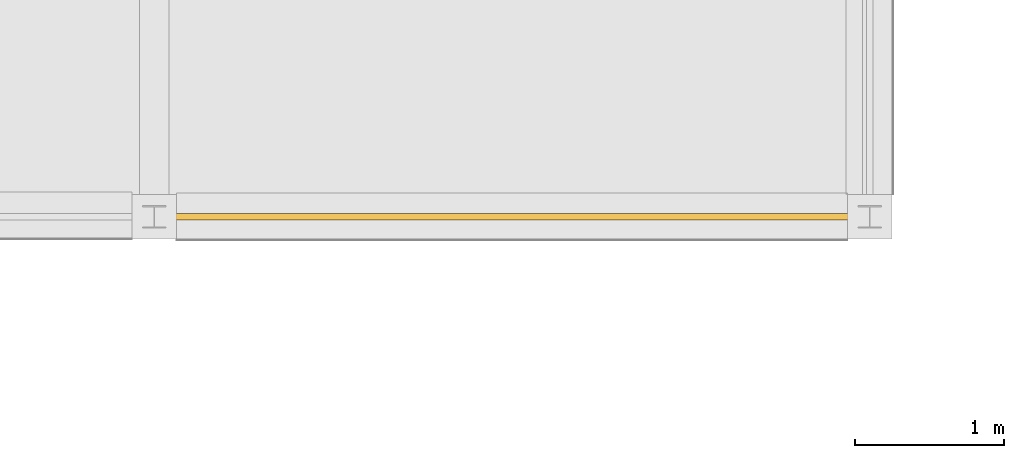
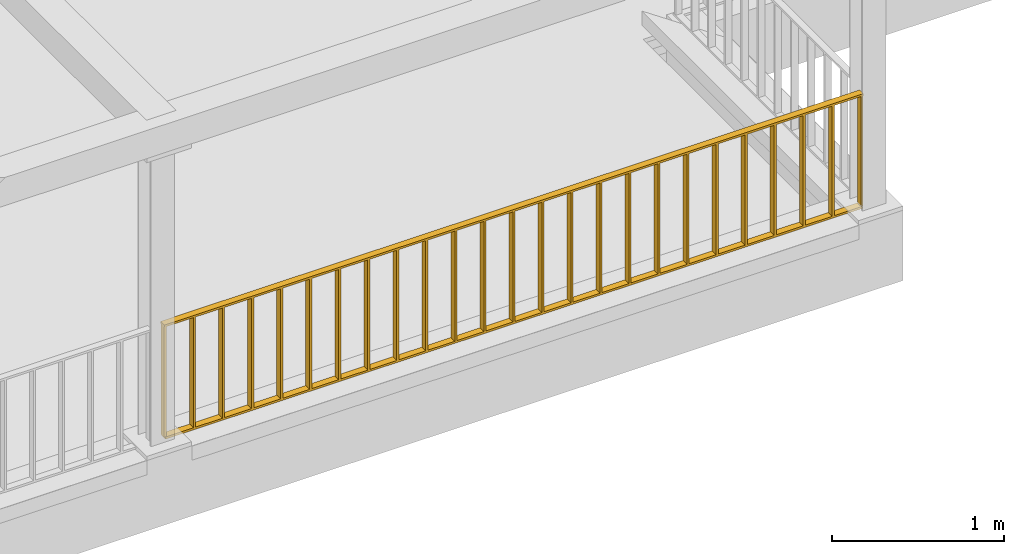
# One storey, part 26 of 36: 1 railing.
"""IFC4 building model written with IfcOpenShell, lengths in millimetres."""

import ifcopenshell
import ifcopenshell.guid

model = None  # the IFC model being written
_history = None  # IfcOwnerHistory: only IFC2X3 demands one
_inside = {}  # id of a spatial element -> (the spatial element, [elements in it])
_under = {}  # id of a project, library or spatial element -> (it, [spatial elements below it])
_declared = {}  # id of a project -> (the project, [libraries it declares])
_typed = {}  # id of a type object -> (the type object, [elements of that type])
_made_of = {}  # id of a material, layer set ... -> (it, [elements and type objects made of it])


def new_model(schema):
    """Start an empty IFC model of exactly this schema.

    Asked for "IFC4X3", IfcOpenShell would pick the latest addendum, in which some entities
    have other attributes; the version numbers below select the first issue.
    IFC2X3 requires an IfcOwnerHistory on every rooted entity: one is made here for all.
    """
    global model, _history
    if schema == "IFC4X3":
        model = ifcopenshell.file(schema_version=(4, 3, 0, 0))
    else:
        model = ifcopenshell.file(schema=schema)
    _inside.clear()
    _under.clear()
    _declared.clear()
    _typed.clear()
    _made_of.clear()
    _history = None
    if model.schema == "IFC2X3":
        org = make("IfcOrganization", Name="unknown")
        user = make(
            "IfcPersonAndOrganization",
            ThePerson=make("IfcPerson", FamilyName="unknown"),
            TheOrganization=org,
        )
        app = make(
            "IfcApplication",
            ApplicationDeveloper=org,
            Version="unknown",
            ApplicationFullName="unknown",
            ApplicationIdentifier="unknown",
        )
        _history = make(
            "IfcOwnerHistory",
            OwningUser=user,
            OwningApplication=app,
            ChangeAction="ADDED",
            CreationDate=0,
        )
    return model


def make(cls, **values):
    """One entity of the class cls with the attributes given. An attribute that is None is left unset."""
    return model.create_entity(
        cls, **{name: value for name, value in values.items() if value is not None}
    )


def entity(cls, *values):
    """Any entity or typed value of the class cls, its attributes in the order of the schema. None: left unset."""
    e = model.create_entity(cls)
    for i, value in enumerate(values):
        if value is not None:
            e[i] = value
    return e


def rooted(cls, **values):
    """An entity with a GlobalId (a new one), such as an element, a storey or a relation."""
    return make(cls, GlobalId=ifcopenshell.guid.new(), OwnerHistory=_history, **values)


def si_unit(unit_type, name, prefix=None):
    """IfcSIUnit, for example si_unit("LENGTHUNIT", "METRE", prefix="MILLI")."""
    return make("IfcSIUnit", UnitType=unit_type, Prefix=prefix, Name=name)


def converted_unit(unit_type, name, factor, base, dimensions=None, offset=None):
    """IfcConversionBasedUnit, such as the inch: factor (a typed value) times the base unit."""
    return make(
        "IfcConversionBasedUnit"
        if offset is None
        else "IfcConversionBasedUnitWithOffset",
        ConversionOffset=offset,
        Dimensions=None
        if dimensions is None
        else entity("IfcDimensionalExponents", *dimensions),
        UnitType=unit_type,
        Name=name,
        ConversionFactor=make(
            "IfcMeasureWithUnit", ValueComponent=factor, UnitComponent=base
        ),
    )


def derived_unit(unit_type, elements):
    """IfcDerivedUnit: a product of units, each with its exponent."""
    return make(
        "IfcDerivedUnit",
        Elements=[
            make("IfcDerivedUnitElement", Unit=unit, Exponent=power)
            for unit, power in elements
        ],
        UnitType=unit_type,
    )


def assignment(units):
    """IfcUnitAssignment: the units of a project."""
    return None if units is None else make("IfcUnitAssignment", Units=units)


def point(xyz):
    """IfcCartesianPoint."""
    return None if xyz is None else make("IfcCartesianPoint", Coordinates=xyz)


def direction(xyz):
    """IfcDirection."""
    return None if xyz is None else make("IfcDirection", DirectionRatios=xyz)


def frame(location, z_axis=None, x_axis=None):
    """IfcAxis2Placement3D, a coordinate frame: its origin and axes. An axis left out is left unset."""
    return make(
        "IfcAxis2Placement3D",
        Location=point(location),
        Axis=direction(z_axis),
        RefDirection=direction(x_axis),
    )


def origin_with_axes():
    """The frame at (0, 0, 0) with the z axis (0, 0, 1) and the x axis (1, 0, 0) written out."""
    return frame((0.0, 0.0, 0.0), z_axis=(0.0, 0.0, 1.0), x_axis=(1.0, 0.0, 0.0))


def place(relative_to, where):
    """IfcLocalPlacement: puts the frame where relative to a parent placement (None: the world)."""
    return make(
        "IfcLocalPlacement", PlacementRelTo=relative_to, RelativePlacement=where
    )


def context(
    kind, dimensions, precision=None, world=None, true_north=None, identifier=None
):
    """IfcGeometricRepresentationContext, for example the 3D "Model" context."""
    return make(
        "IfcGeometricRepresentationContext",
        ContextIdentifier=identifier,
        ContextType=kind,
        CoordinateSpaceDimension=dimensions,
        Precision=precision,
        WorldCoordinateSystem=world,
        TrueNorth=true_north,
    )


def subcontext(parent, identifier, kind, view, scale=None):
    """IfcGeometricRepresentationSubContext, for example "Body" below "Model"."""
    return make(
        "IfcGeometricRepresentationSubContext",
        ContextIdentifier=identifier,
        ContextType=kind,
        ParentContext=parent,
        TargetScale=scale,
        TargetView=view,
    )


def project(units=None, contexts=None):
    """IfcProject with its units and contexts."""
    return rooted(
        "IfcProject",
        Name="project",
        RepresentationContexts=contexts,
        UnitsInContext=assignment(units),
    )


def spatial(cls, under=None, at=None, **own):
    """A site, building, storey or space (cls), placed at a placement, below another one or the project."""
    s = rooted(cls, ObjectPlacement=at, **own)
    if under is not None:
        _under.setdefault(under.id(), (under, []))[1].append(s)
    return s


def point_list(points):
    """IfcCartesianPointList2D or 3D."""
    cls = (
        "IfcCartesianPointList2D" if len(points[0]) == 2 else "IfcCartesianPointList3D"
    )
    return make(cls, CoordList=points)


def polygons(points, faces, closed=None, point_numbers=None):
    """IfcPolygonalFaceSet: a face is its outer loop, then its inner loops; points numbered from 1."""
    made = []
    for loops in faces:
        if len(loops) == 1:
            made.append(make("IfcIndexedPolygonalFace", CoordIndex=loops[0]))
        else:
            made.append(
                make(
                    "IfcIndexedPolygonalFaceWithVoids",
                    CoordIndex=loops[0],
                    InnerCoordIndices=loops[1:],
                )
            )
    return make(
        "IfcPolygonalFaceSet",
        Coordinates=point_list(points),
        Closed=closed,
        Faces=made,
        PnIndex=point_numbers,
    )


def shape(context_of_items, identifier, shape_type, items):
    """IfcShapeRepresentation: the items that make up one representation, for example the "Body"."""
    return make(
        "IfcShapeRepresentation",
        ContextOfItems=context_of_items,
        RepresentationIdentifier=identifier,
        RepresentationType=shape_type,
        Items=items,
    )


def material(Name=None, Category=None):
    """IfcMaterial."""
    return make("IfcMaterial", Name=Name, Category=Category)


def constituent(of_material, Name=None, Category=None, fraction=None):
    """IfcMaterialConstituent: one of the materials an element consists of."""
    return make(
        "IfcMaterialConstituent",
        Name=Name,
        Material=of_material,
        Fraction=fraction,
        Category=Category,
    )


def constituent_set(constituents=None, Name=None):
    """IfcMaterialConstituentSet."""
    return make(
        "IfcMaterialConstituentSet", Name=Name, MaterialConstituents=constituents
    )


def made_of(thing, what):
    """Note that an element or type object is made of a material, layer set ...; save() writes the relation."""
    if what is not None:
        _made_of.setdefault(what.id(), (what, []))[1].append(thing)
    return thing


def type_object(cls, material=None, **own):
    """A type object (cls), such as IfcWallType, which elements share."""
    return made_of(rooted(cls, **own), material)


def element(
    cls,
    number,
    at=None,
    inside=None,
    cuts=None,
    type_object=None,
    material=None,
    context=None,
    identifier="Body",
    shape_type=None,
    held_by="IfcProductDefinitionShape",
    body=None,
    shapes=None,
    **own,
):
    """One element of the class cls, such as IfcWall. Its Tag is "e" and its number.

    at: its placement. inside: the storey or other place that contains it. cuts: it is an
    opening in that element (IfcRelVoidsElement). A single representation is given by context,
    identifier, shape_type and body (its items); several are given by shapes. held_by: the class
    of the entity that holds the representations. save() writes the other relations.
    """
    e = rooted(cls, Tag="e%d" % number, ObjectPlacement=at, **own)
    if body is not None:
        shapes = [shape(context, identifier, shape_type, body)]
    if shapes is not None:
        e.Representation = make(held_by, Representations=shapes)
    if inside is not None:
        _inside.setdefault(inside.id(), (inside, []))[1].append(e)
    if cuts is not None:
        rooted(
            "IfcRelVoidsElement", RelatingBuildingElement=cuts, RelatedOpeningElement=e
        )
    if type_object is not None:
        _typed.setdefault(type_object.id(), (type_object, []))[1].append(e)
    return made_of(e, material)


def aggregate(whole, parts):
    """IfcRelAggregates: a whole, such as a stair, and the parts it consists of."""
    return rooted("IfcRelAggregates", RelatingObject=whole, RelatedObjects=parts)


def save(model, path):
    """Write the relations noted so far, then the file.

    IfcRelAggregates (storeys below a building ...), IfcRelContainedInSpatialStructure (elements
    in a storey), IfcRelDefinesByType, IfcRelAssociatesMaterial and IfcRelDeclares: one each for
    every whole, place, type object, material and project.
    """
    for whole, parts in _under.values():
        aggregate(whole, parts)
    for where, things in _inside.values():
        rooted(
            "IfcRelContainedInSpatialStructure",
            RelatedElements=things,
            RelatingStructure=where,
        )
    for kind, things in _typed.values():
        rooted("IfcRelDefinesByType", RelatedObjects=things, RelatingType=kind)
    for what, things in _made_of.values():
        rooted("IfcRelAssociatesMaterial", RelatedObjects=things, RelatingMaterial=what)
    for by, libraries in _declared.values():
        rooted("IfcRelDeclares", RelatingContext=by, RelatedDefinitions=libraries)
    model.write(path)


model = new_model("IFC4")

# Units and contexts
model_context = context("Model", 3, precision=0.01, world=origin_with_axes(), true_north=direction((0.0, 1.0)))
body_context = subcontext(model_context, "Body", "Model", "MODEL_VIEW")
ifc_project = project(units=[si_unit("LENGTHUNIT", "METRE", prefix="MILLI"), si_unit("AREAUNIT", "SQUARE_METRE"), si_unit("VOLUMEUNIT", "CUBIC_METRE"), converted_unit("PLANEANGLEUNIT", "DEGREE", entity("IfcPlaneAngleMeasure", 0.0174532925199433), si_unit("PLANEANGLEUNIT", "RADIAN"), dimensions=[0, 0, 0, 0, 0, 0, 0]), converted_unit("TIMEUNIT", "Year", entity("IfcTimeMeasure", 31557600.0), si_unit("TIMEUNIT", "SECOND"), dimensions=[0, 0, 1, 0, 0, 0, 0]), si_unit("MASSUNIT", "GRAM", prefix="KILO"), si_unit("THERMODYNAMICTEMPERATUREUNIT", "DEGREE_CELSIUS"), si_unit("LUMINOUSINTENSITYUNIT", "LUMEN"), si_unit("ENERGYUNIT", "JOULE", prefix="MEGA"), derived_unit("THERMALCONDUCTANCEUNIT", [(si_unit("POWERUNIT", "WATT"), 1), (si_unit("LENGTHUNIT", "METRE"), -1), (si_unit("THERMODYNAMICTEMPERATUREUNIT", "KELVIN"), -1)]), derived_unit("SPECIFICHEATCAPACITYUNIT", [(si_unit("ENERGYUNIT", "JOULE"), 1), (si_unit("MASSUNIT", "GRAM", prefix="KILO"), -1), (si_unit("THERMODYNAMICTEMPERATUREUNIT", "KELVIN"), -1)]), derived_unit("MASSDENSITYUNIT", [(si_unit("MASSUNIT", "GRAM", prefix="KILO"), 1), (si_unit("VOLUMEUNIT", "CUBIC_METRE"), -1)])], contexts=[model_context])

# Site, building, storey
site_placement = place(None, origin_with_axes())
site = spatial("IfcSite", under=ifc_project, at=site_placement, Name="Gelände", CompositionType="ELEMENT")
building_placement = place(site_placement, origin_with_axes())
building = spatial("IfcBuilding", under=site, at=building_placement, Name="Gebäude", CompositionType="ELEMENT")
storey_placement = place(building_placement, frame((0.0, 0.0, 8700.0), z_axis=(0.0, 0.0, 1.0), x_axis=(1.0, 0.0, 0.0)))
storey = spatial("IfcBuildingStorey", under=building, at=storey_placement, Name="Attika", CompositionType="ELEMENT", Elevation=8700.0)

# Railing
ifc_material = material(Name="Stahl")
ifc_constituent_1 = constituent(ifc_material, Name="Stahl 1")
ifc_constituent_2 = constituent(ifc_material, Name="Stahl 2")
ifc_constituent_3 = constituent(ifc_material, Name="Stahl 3")
ifc_constituent_4 = constituent(ifc_material, Name="Stahl 4")
ifc_constituent_5 = constituent(ifc_material, Name="Stahl 5")
ifc_constituent_6 = constituent(ifc_material, Name="Stahl 6")
ifc_constituent_7 = constituent(ifc_material, Name="Stahl 7")
ifc_constituent_8 = constituent(ifc_material, Name="Stahl 8")
ifc_constituent_9 = constituent(ifc_material, Name="Stahl 9")
ifc_constituent_10 = constituent(ifc_material, Name="Stahl 10")
ifc_constituent_11 = constituent(ifc_material, Name="Stahl 11")
ifc_constituent_12 = constituent(ifc_material, Name="Stahl 12")
ifc_constituent_13 = constituent(ifc_material, Name="Stahl 13")
ifc_constituent_14 = constituent(ifc_material, Name="Stahl 14")
ifc_constituent_15 = constituent(ifc_material, Name="Stahl 15")
ifc_constituent_16 = constituent(ifc_material, Name="Stahl 16")
ifc_constituent_17 = constituent(ifc_material, Name="Stahl 17")
ifc_constituent_18 = constituent(ifc_material, Name="Stahl 18")
ifc_constituent_19 = constituent(ifc_material, Name="Stahl 19")
ifc_constituent_20 = constituent(ifc_material, Name="Stahl 20")
ifc_constituent_21 = constituent(ifc_material, Name="Stahl 21")
ifc_constituent_22 = constituent(ifc_material, Name="Stahl 22")
ifc_constituent_23 = constituent(ifc_material, Name="Stahl 23")
ifc_constituent_24 = constituent(ifc_material, Name="Stahl 24")
ifc_constituent_25 = constituent(ifc_material, Name="Stahl 25")
ifc_constituent_26 = constituent(ifc_material, Name="Stahl 26")
ifc_constituent_27 = constituent(ifc_material, Name="Stahl 27")
ifc_constituent_28 = constituent(ifc_material, Name="Stahl 28")
ifc_constituent_29 = constituent(ifc_material, Name="Stahl 29")
ifc_constituent_set = constituent_set(constituents=[ifc_constituent_1, ifc_constituent_2, ifc_constituent_3, ifc_constituent_4, ifc_constituent_5, ifc_constituent_6, ifc_constituent_7, ifc_constituent_8, ifc_constituent_9, ifc_constituent_10, ifc_constituent_11, ifc_constituent_12, ifc_constituent_13, ifc_constituent_14, ifc_constituent_15, ifc_constituent_16, ifc_constituent_17, ifc_constituent_18, ifc_constituent_19, ifc_constituent_20, ifc_constituent_21, ifc_constituent_22, ifc_constituent_23, ifc_constituent_24, ifc_constituent_25, ifc_constituent_26, ifc_constituent_27, ifc_constituent_28, ifc_constituent_29])
railing_type = type_object("IfcRailingType", Name="Geländerart", PredefinedType="NOTDEFINED")
railing_placement = place(storey_placement, frame((15627.05528052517, 21097.59674077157, 519.9999999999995), z_axis=(0.0, 0.0, 1.0), x_axis=(-1.0, 0.0, 0.0)))
element("IfcRailing", 1, at=railing_placement, inside=storey, type_object=railing_type, material=ifc_constituent_set, Name="Geländer-003", PredefinedType="NOTDEFINED", context=body_context, shape_type="Tessellation", body=[
    polygons([(196.5594620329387, 19.99999999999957, 0.0), (196.5594620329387, 19.99999999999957, 800.0000000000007), (196.5594620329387, -19.99999999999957, 800.0000000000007), (196.5594620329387, -19.99999999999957, 0.0), (181.5594620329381, 19.99999999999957, 0.0), (181.5594620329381, 19.99999999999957, 800.0000000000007), (181.5594620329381, -19.99999999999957, 800.0000000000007), (181.5594620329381, -19.99999999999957, 0.0)], [[[1, 2, 3, 4]], [[5, 6, 2, 1]], [[2, 6, 7, 3]], [[4, 3, 7, 8]], [[1, 4, 8, 5]], [[8, 7, 6, 5]]], closed=True),
    polygons([(189.0594620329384, 22.50000000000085, 800.0000000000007), (189.0594620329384, 22.50000000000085, 785.0000000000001), (181.5594620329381, 22.50000000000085, 785.0000000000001), (181.5594620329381, 22.50000000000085, 800.0000000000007), (189.0594620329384, -22.50000000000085, 800.0000000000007), (189.0594620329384, -22.50000000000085, 785.0000000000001), (181.5594620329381, -22.50000000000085, 785.0000000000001), (181.5594620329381, -22.50000000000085, 800.0000000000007)], [[[1, 2, 3, 4]], [[1, 5, 6, 2]], [[2, 6, 7, 3]], [[4, 3, 7, 8]], [[5, 1, 4, 8]], [[6, 5, 8, 7]]], closed=True),
    polygons([(4887.359462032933, 19.99999999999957, 0.0), (4887.359462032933, 19.99999999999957, 800.0000000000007), (4887.359462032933, -19.99999999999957, 800.0000000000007), (4887.359462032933, -19.99999999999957, 0.0), (4872.359462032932, 19.99999999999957, 0.0), (4872.359462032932, 19.99999999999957, 800.0000000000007), (4872.359462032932, -19.99999999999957, 800.0000000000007), (4872.359462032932, -19.99999999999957, 0.0)], [[[1, 2, 3, 4]], [[5, 6, 2, 1]], [[2, 6, 7, 3]], [[4, 3, 7, 8]], [[1, 4, 8, 5]], [[8, 7, 6, 5]]], closed=True),
    polygons([(4879.859462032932, -22.50000000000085, 800.0000000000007), (4879.859462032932, -22.50000000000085, 785.0000000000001), (4887.359462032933, -22.50000000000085, 785.0000000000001), (4887.359462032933, -22.50000000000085, 800.0000000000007), (4879.859462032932, 22.50000000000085, 800.0000000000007), (4879.859462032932, 22.50000000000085, 785.0000000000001), (4887.359462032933, 22.50000000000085, 785.0000000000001), (4887.359462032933, 22.50000000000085, 800.0000000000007)], [[[1, 2, 3, 4]], [[1, 5, 6, 2]], [[2, 6, 7, 3]], [[4, 3, 7, 8]], [[5, 1, 4, 8]], [[6, 5, 8, 7]]], closed=True),
    polygons([(189.0594620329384, -22.50000000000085, 0.9999999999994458), (189.0594620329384, -22.50000000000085, -14.00000000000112), (4879.859462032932, -22.50000000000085, -14.00000000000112), (4879.859462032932, -22.50000000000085, 0.9999999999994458), (189.0594620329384, 22.50000000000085, 0.9999999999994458), (189.0594620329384, 22.50000000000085, -14.00000000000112), (4879.859462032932, 22.50000000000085, -14.00000000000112), (4879.859462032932, 22.50000000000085, 0.9999999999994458)], [[[1, 2, 3, 4]], [[1, 5, 6, 2]], [[2, 6, 7, 3]], [[4, 3, 7, 8]], [[5, 1, 4, 8]], [[6, 5, 8, 7]]], closed=True),
    polygons([(189.0594620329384, -22.50000000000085, 800.0000000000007), (189.0594620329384, -22.50000000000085, 785.0000000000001), (4879.859462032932, -22.50000000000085, 785.0000000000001), (4879.859462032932, -22.50000000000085, 800.0000000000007), (189.0594620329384, 22.50000000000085, 800.0000000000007), (189.0594620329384, 22.50000000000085, 785.0000000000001), (4879.859462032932, 22.50000000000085, 785.0000000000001), (4879.859462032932, 22.50000000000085, 800.0000000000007)], [[[1, 2, 3, 4]], [[1, 5, 6, 2]], [[2, 6, 7, 3]], [[4, 3, 7, 8]], [[5, 1, 4, 8]], [[6, 5, 8, 7]]], closed=True),
    polygons([(392.009462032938, 22.50000000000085, 0.0), (392.009462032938, 22.50000000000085, 785.2293691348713), (392.009462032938, -22.50000000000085, 785.2293691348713), (392.009462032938, -22.50000000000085, 0.0), (377.0094620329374, 22.50000000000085, 0.0), (377.0094620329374, 22.50000000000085, 785.2293691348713), (377.0094620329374, -22.50000000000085, 785.2293691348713), (377.0094620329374, -22.50000000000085, 0.0)], [[[1, 2, 3, 4]], [[5, 6, 2, 1]], [[2, 6, 7, 3]], [[4, 3, 7, 8]], [[1, 4, 8, 5]], [[8, 7, 6, 5]]], closed=True),
    polygons([(587.459462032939, 22.50000000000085, 0.0), (587.459462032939, 22.50000000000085, 785.2293691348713), (587.459462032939, -22.50000000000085, 785.2293691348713), (587.459462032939, -22.50000000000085, 0.0), (572.4594620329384, 22.50000000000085, 0.0), (572.4594620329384, 22.50000000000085, 785.2293691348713), (572.4594620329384, -22.50000000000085, 785.2293691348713), (572.4594620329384, -22.50000000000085, 0.0)], [[[1, 2, 3, 4]], [[5, 6, 2, 1]], [[2, 6, 7, 3]], [[4, 3, 7, 8]], [[1, 4, 8, 5]], [[8, 7, 6, 5]]], closed=True),
    polygons([(782.9094620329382, 22.50000000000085, 0.0), (782.9094620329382, 22.50000000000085, 785.2293691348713), (782.9094620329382, -22.50000000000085, 785.2293691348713), (782.9094620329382, -22.50000000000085, 0.0), (767.9094620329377, 22.50000000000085, 0.0), (767.9094620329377, 22.50000000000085, 785.2293691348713), (767.9094620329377, -22.50000000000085, 785.2293691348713), (767.9094620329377, -22.50000000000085, 0.0)], [[[1, 2, 3, 4]], [[5, 6, 2, 1]], [[2, 6, 7, 3]], [[4, 3, 7, 8]], [[1, 4, 8, 5]], [[8, 7, 6, 5]]], closed=True),
    polygons([(978.3594620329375, 22.50000000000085, 0.0), (978.3594620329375, 22.50000000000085, 785.2293691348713), (978.3594620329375, -22.50000000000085, 785.2293691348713), (978.3594620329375, -22.50000000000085, 0.0), (963.3594620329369, 22.50000000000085, 0.0), (963.3594620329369, 22.50000000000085, 785.2293691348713), (963.3594620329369, -22.50000000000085, 785.2293691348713), (963.3594620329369, -22.50000000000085, 0.0)], [[[1, 2, 3, 4]], [[5, 6, 2, 1]], [[2, 6, 7, 3]], [[4, 3, 7, 8]], [[1, 4, 8, 5]], [[8, 7, 6, 5]]], closed=True),
    polygons([(1173.809462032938, 22.50000000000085, 0.0), (1173.809462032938, 22.50000000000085, 785.2293691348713), (1173.809462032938, -22.50000000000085, 785.2293691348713), (1173.809462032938, -22.50000000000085, 0.0), (1158.809462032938, 22.50000000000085, 0.0), (1158.809462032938, 22.50000000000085, 785.2293691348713), (1158.809462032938, -22.50000000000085, 785.2293691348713), (1158.809462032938, -22.50000000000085, 0.0)], [[[1, 2, 3, 4]], [[5, 6, 2, 1]], [[2, 6, 7, 3]], [[4, 3, 7, 8]], [[1, 4, 8, 5]], [[8, 7, 6, 5]]], closed=True),
    polygons([(1369.259462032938, 22.50000000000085, 0.0), (1369.259462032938, 22.50000000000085, 785.2293691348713), (1369.259462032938, -22.50000000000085, 785.2293691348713), (1369.259462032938, -22.50000000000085, 0.0), (1354.259462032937, 22.50000000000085, 0.0), (1354.259462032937, 22.50000000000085, 785.2293691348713), (1354.259462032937, -22.50000000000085, 785.2293691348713), (1354.259462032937, -22.50000000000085, 0.0)], [[[1, 2, 3, 4]], [[5, 6, 2, 1]], [[2, 6, 7, 3]], [[4, 3, 7, 8]], [[1, 4, 8, 5]], [[8, 7, 6, 5]]], closed=True),
    polygons([(1564.709462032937, 22.50000000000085, 0.0), (1564.709462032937, 22.50000000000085, 785.2293691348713), (1564.709462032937, -22.50000000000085, 785.2293691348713), (1564.709462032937, -22.50000000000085, 0.0), (1549.709462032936, 22.50000000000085, 0.0), (1549.709462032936, 22.50000000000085, 785.2293691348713), (1549.709462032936, -22.50000000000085, 785.2293691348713), (1549.709462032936, -22.50000000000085, 0.0)], [[[1, 2, 3, 4]], [[5, 6, 2, 1]], [[2, 6, 7, 3]], [[4, 3, 7, 8]], [[1, 4, 8, 5]], [[8, 7, 6, 5]]], closed=True),
    polygons([(1760.159462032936, 22.50000000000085, 0.0), (1760.159462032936, 22.50000000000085, 785.2293691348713), (1760.159462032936, -22.50000000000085, 785.2293691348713), (1760.159462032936, -22.50000000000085, 0.0), (1745.159462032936, 22.50000000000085, 0.0), (1745.159462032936, 22.50000000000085, 785.2293691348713), (1745.159462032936, -22.50000000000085, 785.2293691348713), (1745.159462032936, -22.50000000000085, 0.0)], [[[1, 2, 3, 4]], [[5, 6, 2, 1]], [[2, 6, 7, 3]], [[4, 3, 7, 8]], [[1, 4, 8, 5]], [[8, 7, 6, 5]]], closed=True),
    polygons([(1955.609462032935, 22.50000000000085, 0.0), (1955.609462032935, 22.50000000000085, 785.2293691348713), (1955.609462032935, -22.50000000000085, 785.2293691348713), (1955.609462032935, -22.50000000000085, 0.0), (1940.609462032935, 22.50000000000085, 0.0), (1940.609462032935, 22.50000000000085, 785.2293691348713), (1940.609462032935, -22.50000000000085, 785.2293691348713), (1940.609462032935, -22.50000000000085, 0.0)], [[[1, 2, 3, 4]], [[5, 6, 2, 1]], [[2, 6, 7, 3]], [[4, 3, 7, 8]], [[1, 4, 8, 5]], [[8, 7, 6, 5]]], closed=True),
    polygons([(2151.059462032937, 22.50000000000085, 0.0), (2151.059462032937, 22.50000000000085, 785.2293691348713), (2151.059462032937, -22.50000000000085, 785.2293691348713), (2151.059462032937, -22.50000000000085, 0.0), (2136.059462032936, 22.50000000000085, 0.0), (2136.059462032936, 22.50000000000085, 785.2293691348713), (2136.059462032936, -22.50000000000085, 785.2293691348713), (2136.059462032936, -22.50000000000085, 0.0)], [[[1, 2, 3, 4]], [[5, 6, 2, 1]], [[2, 6, 7, 3]], [[4, 3, 7, 8]], [[1, 4, 8, 5]], [[8, 7, 6, 5]]], closed=True),
    polygons([(2346.509462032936, 22.50000000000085, 0.0), (2346.509462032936, 22.50000000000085, 785.2293691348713), (2346.509462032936, -22.50000000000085, 785.2293691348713), (2346.509462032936, -22.50000000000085, 0.0), (2331.509462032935, 22.50000000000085, 0.0), (2331.509462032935, 22.50000000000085, 785.2293691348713), (2331.509462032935, -22.50000000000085, 785.2293691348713), (2331.509462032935, -22.50000000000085, 0.0)], [[[1, 2, 3, 4]], [[5, 6, 2, 1]], [[2, 6, 7, 3]], [[4, 3, 7, 8]], [[1, 4, 8, 5]], [[8, 7, 6, 5]]], closed=True),
    polygons([(2541.959462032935, 22.50000000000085, 0.0), (2541.959462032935, 22.50000000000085, 785.2293691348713), (2541.959462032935, -22.50000000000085, 785.2293691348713), (2541.959462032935, -22.50000000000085, 0.0), (2526.959462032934, 22.50000000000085, 0.0), (2526.959462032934, 22.50000000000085, 785.2293691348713), (2526.959462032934, -22.50000000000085, 785.2293691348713), (2526.959462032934, -22.50000000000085, 0.0)], [[[1, 2, 3, 4]], [[5, 6, 2, 1]], [[2, 6, 7, 3]], [[4, 3, 7, 8]], [[1, 4, 8, 5]], [[8, 7, 6, 5]]], closed=True),
    polygons([(2737.409462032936, 22.50000000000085, 0.0), (2737.409462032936, 22.50000000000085, 785.2293691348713), (2737.409462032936, -22.50000000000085, 785.2293691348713), (2737.409462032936, -22.50000000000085, 0.0), (2722.409462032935, 22.50000000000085, 0.0), (2722.409462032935, 22.50000000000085, 785.2293691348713), (2722.409462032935, -22.50000000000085, 785.2293691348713), (2722.409462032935, -22.50000000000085, 0.0)], [[[1, 2, 3, 4]], [[5, 6, 2, 1]], [[2, 6, 7, 3]], [[4, 3, 7, 8]], [[1, 4, 8, 5]], [[8, 7, 6, 5]]], closed=True),
    polygons([(2932.859462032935, 22.50000000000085, 0.0), (2932.859462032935, 22.50000000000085, 785.2293691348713), (2932.859462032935, -22.50000000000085, 785.2293691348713), (2932.859462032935, -22.50000000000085, 0.0), (2917.859462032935, 22.50000000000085, 0.0), (2917.859462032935, 22.50000000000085, 785.2293691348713), (2917.859462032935, -22.50000000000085, 785.2293691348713), (2917.859462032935, -22.50000000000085, 0.0)], [[[1, 2, 3, 4]], [[5, 6, 2, 1]], [[2, 6, 7, 3]], [[4, 3, 7, 8]], [[1, 4, 8, 5]], [[8, 7, 6, 5]]], closed=True),
    polygons([(3128.309462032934, 22.50000000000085, 0.0), (3128.309462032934, 22.50000000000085, 785.2293691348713), (3128.309462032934, -22.50000000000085, 785.2293691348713), (3128.309462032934, -22.50000000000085, 0.0), (3113.309462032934, 22.50000000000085, 0.0), (3113.309462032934, 22.50000000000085, 785.2293691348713), (3113.309462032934, -22.50000000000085, 785.2293691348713), (3113.309462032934, -22.50000000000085, 0.0)], [[[1, 2, 3, 4]], [[5, 6, 2, 1]], [[2, 6, 7, 3]], [[4, 3, 7, 8]], [[1, 4, 8, 5]], [[8, 7, 6, 5]]], closed=True),
    polygons([(3323.759462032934, 22.50000000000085, 0.0), (3323.759462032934, 22.50000000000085, 785.2293691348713), (3323.759462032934, -22.50000000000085, 785.2293691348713), (3323.759462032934, -22.50000000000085, 0.0), (3308.759462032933, 22.50000000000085, 0.0), (3308.759462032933, 22.50000000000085, 785.2293691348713), (3308.759462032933, -22.50000000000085, 785.2293691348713), (3308.759462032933, -22.50000000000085, 0.0)], [[[1, 2, 3, 4]], [[5, 6, 2, 1]], [[2, 6, 7, 3]], [[4, 3, 7, 8]], [[1, 4, 8, 5]], [[8, 7, 6, 5]]], closed=True),
    polygons([(3519.209462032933, 22.50000000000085, 0.0), (3519.209462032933, 22.50000000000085, 785.2293691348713), (3519.209462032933, -22.50000000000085, 785.2293691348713), (3519.209462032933, -22.50000000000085, 0.0), (3504.209462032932, 22.50000000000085, 0.0), (3504.209462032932, 22.50000000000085, 785.2293691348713), (3504.209462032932, -22.50000000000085, 785.2293691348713), (3504.209462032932, -22.50000000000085, 0.0)], [[[1, 2, 3, 4]], [[5, 6, 2, 1]], [[2, 6, 7, 3]], [[4, 3, 7, 8]], [[1, 4, 8, 5]], [[8, 7, 6, 5]]], closed=True),
    polygons([(3714.659462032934, 22.50000000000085, 0.0), (3714.659462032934, 22.50000000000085, 785.2293691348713), (3714.659462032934, -22.50000000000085, 785.2293691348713), (3714.659462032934, -22.50000000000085, 0.0), (3699.659462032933, 22.50000000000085, 0.0), (3699.659462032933, 22.50000000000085, 785.2293691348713), (3699.659462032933, -22.50000000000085, 785.2293691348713), (3699.659462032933, -22.50000000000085, 0.0)], [[[1, 2, 3, 4]], [[5, 6, 2, 1]], [[2, 6, 7, 3]], [[4, 3, 7, 8]], [[1, 4, 8, 5]], [[8, 7, 6, 5]]], closed=True),
    polygons([(3910.109462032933, 22.50000000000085, 0.0), (3910.109462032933, 22.50000000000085, 785.2293691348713), (3910.109462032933, -22.50000000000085, 785.2293691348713), (3910.109462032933, -22.50000000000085, 0.0), (3895.109462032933, 22.50000000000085, 0.0), (3895.109462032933, 22.50000000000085, 785.2293691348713), (3895.109462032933, -22.50000000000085, 785.2293691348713), (3895.109462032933, -22.50000000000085, 0.0)], [[[1, 2, 3, 4]], [[5, 6, 2, 1]], [[2, 6, 7, 3]], [[4, 3, 7, 8]], [[1, 4, 8, 5]], [[8, 7, 6, 5]]], closed=True),
    polygons([(4105.559462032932, 22.50000000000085, 0.0), (4105.559462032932, 22.50000000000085, 785.2293691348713), (4105.559462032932, -22.50000000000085, 785.2293691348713), (4105.559462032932, -22.50000000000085, 0.0), (4090.559462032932, 22.50000000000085, 0.0), (4090.559462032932, 22.50000000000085, 785.2293691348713), (4090.559462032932, -22.50000000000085, 785.2293691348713), (4090.559462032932, -22.50000000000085, 0.0)], [[[1, 2, 3, 4]], [[5, 6, 2, 1]], [[2, 6, 7, 3]], [[4, 3, 7, 8]], [[1, 4, 8, 5]], [[8, 7, 6, 5]]], closed=True),
    polygons([(4301.009462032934, 22.50000000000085, 0.0), (4301.009462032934, 22.50000000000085, 785.2293691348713), (4301.009462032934, -22.50000000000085, 785.2293691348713), (4301.009462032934, -22.50000000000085, 0.0), (4286.009462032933, 22.50000000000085, 0.0), (4286.009462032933, 22.50000000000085, 785.2293691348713), (4286.009462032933, -22.50000000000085, 785.2293691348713), (4286.009462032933, -22.50000000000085, 0.0)], [[[1, 2, 3, 4]], [[5, 6, 2, 1]], [[2, 6, 7, 3]], [[4, 3, 7, 8]], [[1, 4, 8, 5]], [[8, 7, 6, 5]]], closed=True),
    polygons([(4496.459462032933, 22.50000000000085, 0.0), (4496.459462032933, 22.50000000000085, 785.2293691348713), (4496.459462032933, -22.50000000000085, 785.2293691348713), (4496.459462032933, -22.50000000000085, 0.0), (4481.459462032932, 22.50000000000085, 0.0), (4481.459462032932, 22.50000000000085, 785.2293691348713), (4481.459462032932, -22.50000000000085, 785.2293691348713), (4481.459462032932, -22.50000000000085, 0.0)], [[[1, 2, 3, 4]], [[5, 6, 2, 1]], [[2, 6, 7, 3]], [[4, 3, 7, 8]], [[1, 4, 8, 5]], [[8, 7, 6, 5]]], closed=True),
    polygons([(4691.909462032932, 22.50000000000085, 0.0), (4691.909462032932, 22.50000000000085, 785.2293691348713), (4691.909462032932, -22.50000000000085, 785.2293691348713), (4691.909462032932, -22.50000000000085, 0.0), (4676.909462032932, 22.50000000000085, 0.0), (4676.909462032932, 22.50000000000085, 785.2293691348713), (4676.909462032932, -22.50000000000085, 785.2293691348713), (4676.909462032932, -22.50000000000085, 0.0)], [[[1, 2, 3, 4]], [[5, 6, 2, 1]], [[2, 6, 7, 3]], [[4, 3, 7, 8]], [[1, 4, 8, 5]], [[8, 7, 6, 5]]], closed=True),
])

save(model, "model.ifc")
